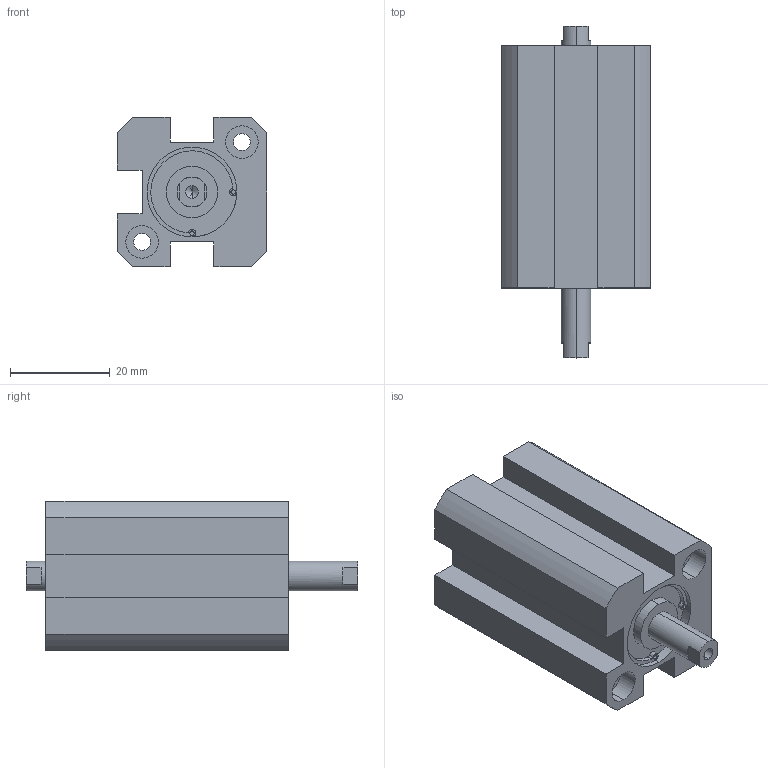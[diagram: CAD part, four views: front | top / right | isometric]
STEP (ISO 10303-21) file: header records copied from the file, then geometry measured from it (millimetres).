
FILE_DESCRIPTION (( 'STEP AP203' ), '1' );
FILE_NAME ('XG#7-16D-10.STEP', '2016-05-24T01:56:51', ( '' ), ( '' ), 'SwSTEP 2.0', 'SolidWorks 2014', '' );
FILE_SCHEMA (( 'CONFIG_CONTROL_DESIGN' ));
Length unit declared in the file: millimetre
Products named in the file (1): XG#7-16D-10
Bounding box: 30 x 66.5 x 30 mm (x, y, z)
Volume: 34450.4 mm3; surface area: 10692.8 mm2
Topology: 1 solids, 1 shells, 108 faces, 266 edges, 170 vertices
Faces by surface type: cylinder 58, plane 42, cone 8
Entity records: 3265 total; most frequent: DIRECTION 602, CARTESIAN_POINT 537, ORIENTED_EDGE 516, EDGE_CURVE 258, AXIS2_PLACEMENT_3D 235, VERTEX_POINT 170, LINE 132, VECTOR 132
